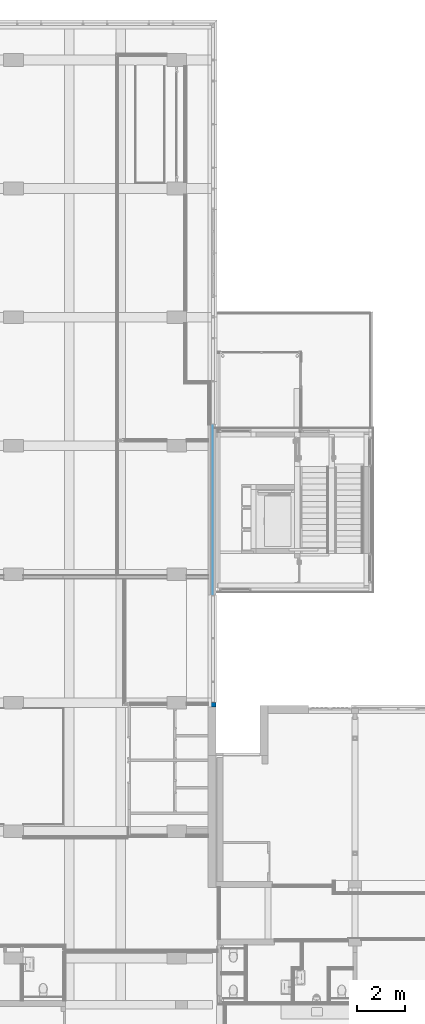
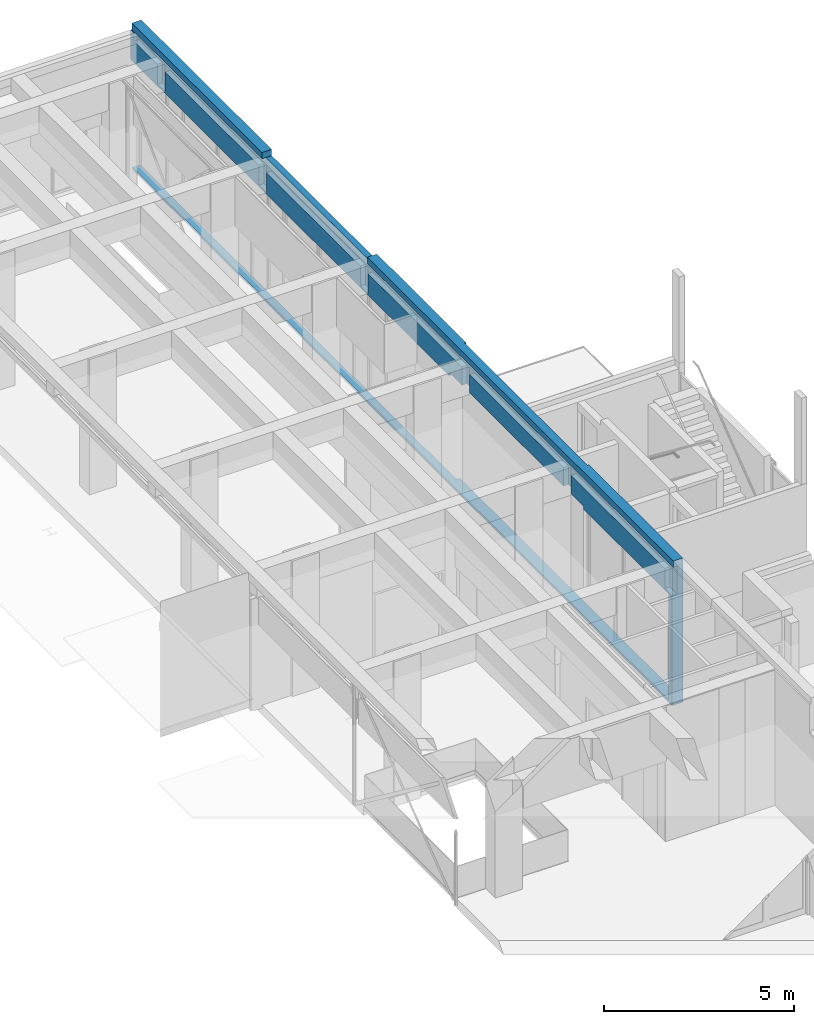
# One storey, part 45 of 117: 1 wall, 16 openings.
"""IFC2X3 building model written with IfcOpenShell, lengths in millimetres."""

from ifc_helpers import new_model, entity, si_unit, converted_unit, derived_unit, money_unit, direction, frame, origin_with_axes, place, context, subcontext, project, spatial, faceted_brep, material, type_object, element, save


model = new_model("IFC2X3")

# Units and contexts
model_context = context("Model", 3, precision=0.01, world=origin_with_axes(), true_north=direction((0.0, 1.0)))
body_context = subcontext(model_context, "Body", "Model", "MODEL_VIEW")
ifc_project = project(units=[si_unit("LENGTHUNIT", "METRE", prefix="MILLI"), si_unit("AREAUNIT", "SQUARE_METRE"), si_unit("VOLUMEUNIT", "CUBIC_METRE"), converted_unit("PLANEANGLEUNIT", "DEGREE", entity("IfcPlaneAngleMeasure", 0.0174532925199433), si_unit("PLANEANGLEUNIT", "RADIAN"), dimensions=[0, 0, 0, 0, 0, 0, 0]), money_unit("EUR"), converted_unit("TIMEUNIT", "Year", entity("IfcTimeMeasure", 31557600.0), si_unit("TIMEUNIT", "SECOND"), dimensions=[0, 0, 1, 0, 0, 0, 0]), si_unit("MASSUNIT", "GRAM", prefix="KILO"), si_unit("THERMODYNAMICTEMPERATUREUNIT", "DEGREE_CELSIUS"), si_unit("LUMINOUSINTENSITYUNIT", "LUMEN"), si_unit("ENERGYUNIT", "JOULE", prefix="MEGA"), derived_unit("THERMALCONDUCTANCEUNIT", [(si_unit("POWERUNIT", "WATT"), 1), (si_unit("LENGTHUNIT", "METRE"), -1), (si_unit("THERMODYNAMICTEMPERATUREUNIT", "KELVIN"), -1)]), derived_unit("SPECIFICHEATCAPACITYUNIT", [(si_unit("ENERGYUNIT", "JOULE"), 1), (si_unit("MASSUNIT", "GRAM", prefix="KILO"), -1), (si_unit("THERMODYNAMICTEMPERATUREUNIT", "KELVIN"), -1)]), derived_unit("MASSDENSITYUNIT", [(si_unit("MASSUNIT", "GRAM", prefix="KILO"), 1), (si_unit("VOLUMEUNIT", "CUBIC_METRE"), -1)])], contexts=[model_context])

# Site, building, storey
site_placement = place(None, origin_with_axes())
site = spatial("IfcSite", under=ifc_project, at=site_placement, Name="Site", CompositionType="ELEMENT")
building_placement = place(site_placement, origin_with_axes())
building = spatial("IfcBuilding", under=site, at=building_placement, Name="Naam gebouw", CompositionType="ELEMENT")
storey_placement = place(building_placement, frame((0.0, 0.0, 4150.0), z_axis=(0.0, 0.0, 1.0), x_axis=(1.0, 0.0, 0.0)))
storey = spatial("IfcBuildingStorey", under=building, at=storey_placement, Name="1e verdieping N", CompositionType="ELEMENT", Elevation=4150.0)

# Wall, openings
ifc_material = material(Name="ALG - CONSTRUCTIEF")
wall_type = type_object("IfcWallType", Name="ALG - CONSTRUCTIEF 330", PredefinedType="NOTDEFINED")
wall_placement = place(storey_placement, frame((29906.0, 56215.91242510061, -79.9999999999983), z_axis=(0.0, 0.0, 1.0), x_axis=(0.0, -1.0, 0.0)))
wall = element("IfcWall", 1, at=wall_placement, inside=storey, type_object=wall_type, material=ifc_material, Name="_Wand-x", context=body_context, shape_type="Brep", body=[
    faceted_brep([(329.9999999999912, 0.0, 79.99999999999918), (104.9999999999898, 225.0000000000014, 79.99999999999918), (104.9999999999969, 0.0, 79.99999999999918), (1610.000000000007, 0.0, 79.99999999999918), (1610.000000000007, 225.0000000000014, 79.99999999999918), (104.9999999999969, 225.0000000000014, 0.0), (104.9999999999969, 0.0, 0.0), (28435.0, 0.0, 0.0), (28435.0, 0.0, 3529.999999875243), (28060.0, 0.0, 3529.999999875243), (28060.0, 0.0, 4169.999999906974), (23130.0, 0.0, 4169.999999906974), (23130.0, 0.0, 3579.999999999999), (23800.0, 0.0, 3579.999999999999), (23800.0, 0.0, 3479.999999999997), (28259.99999999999, 0.0, 3479.999999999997), (28259.99999999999, 0.0, 79.99999999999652), (28259.99999999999, 329.9999999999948, 79.99999999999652), (16730.0, 329.9999999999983, 79.99999999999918), (16730.0, 224.9999999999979, 79.99999999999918), (1610.000000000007, 225.0000000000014, 0.0), (16730.0, 224.9999999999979, 0.0), (16730.0, 329.9999999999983, 0.0), (28435.0, 329.9999999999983, 0.0), (28435.0, 329.9999999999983, 4619.999999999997), (28435.0, 39.00000000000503, 4619.999999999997), (28435.0, 39.00000000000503, 4419.999999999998), (28435.0, 149.9999999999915, 4419.999999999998), (28435.0, 149.999999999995, 3529.999999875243), (28060.0, 149.999999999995, 3529.999999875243), (28060.0, 149.9999999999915, 4169.999999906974), (23130.0, 149.9999999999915, 4169.999999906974), (23130.0, 149.999999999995, 3579.999999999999), (22730.0, 149.999999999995, 3579.999999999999), (22730.0, 0.0, 3579.999999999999), (17800.0, 0.0, 3579.999999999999), (17800.0, 149.999999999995, 3579.999999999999), (17400.0, 149.999999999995, 3579.999999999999), (17400.0, 0.0, 3579.999999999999), (16730.0, 0.0, 3579.999999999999), (16730.0, 329.9999999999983, 3579.999999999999), (23800.0, 329.9999999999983, 3579.999999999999), (23800.0, 329.9999999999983, 3479.999999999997), (28259.99999999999, 329.9999999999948, 3479.999999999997), (28259.99999999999, 329.9999999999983, 85.2898094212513), (28259.99999999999, 259.999999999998, 97.63269807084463), (28259.99999999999, 254.999999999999, 98.51433297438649), (28259.99999999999, 254.999999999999, 108.5143329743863), (28259.99999999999, 252.9999999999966, 108.5143329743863), (28259.99999999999, 252.9999999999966, 96.83613371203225), (28259.99999999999, 259.999999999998, 95.60184484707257), (28259.99999999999, 329.9999999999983, 83.25895619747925), (1610.000000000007, 330.0000000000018, 3479.999999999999), (0.0, 330.0000000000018, 3479.999999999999), (0.0, 330.0000000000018, 4619.999999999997), (6840.000000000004, 330.0000000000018, 4619.999999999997), (6840.000000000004, 330.0000000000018, 4419.999999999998), (12370.0, 330.0000000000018, 4419.999999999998), (12370.0, 330.0000000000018, 4619.999999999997), (17035.99999876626, 329.9999999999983, 4619.999999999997), (17035.99999876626, 329.9999999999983, 4449.999999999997), (23503.99999875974, 329.9999999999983, 4449.999999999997), (23503.99999875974, 329.9999999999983, 4619.999999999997), (16730.0, 329.9999999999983, 3479.999999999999), (12370.0, 39.00000000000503, 4619.999999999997), (12470.00000000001, 39.00000000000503, 4619.999999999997), (17400.0, 39.00000000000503, 4619.999999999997), (17800.0, 39.00000000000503, 4619.999999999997), (22730.0, 39.00000000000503, 4619.999999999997), (23130.0, 39.00000000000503, 4619.999999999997), (23503.99999875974, 285.00000004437, 4619.999999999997), (17035.99999876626, 285.0000000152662, 4619.999999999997), (12370.0, 39.00000000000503, 4419.999999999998), (12370.0, 149.9999999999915, 4419.999999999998), (6840.000000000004, 149.999999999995, 4419.999999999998), (179.9968579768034, 149.999999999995, 4419.999999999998), (179.9968579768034, 149.999999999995, 4169.999999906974), (1410.000000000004, 149.999999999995, 4169.999999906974), (1410.000000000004, 149.999999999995, 3529.999999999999), (1810.000000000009, 149.999999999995, 3529.999999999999), (1810.000000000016, 149.999999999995, 4169.999999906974), (6740.000000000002, 149.999999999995, 4169.999999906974), (6740.000000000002, 149.999999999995, 3529.999999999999), (7140.000000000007, 149.999999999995, 3529.999999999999), (7140.000000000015, 149.999999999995, 4169.999999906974), (12070.0, 149.9999999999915, 4169.999999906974), (12070.0, 149.999999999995, 3529.999999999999), (12470.00000000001, 149.999999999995, 3529.999999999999), (12470.00000000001, 149.9999999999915, 4169.999999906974), (17400.0, 149.9999999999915, 4169.999999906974), (17800.0, 149.9999999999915, 4169.999999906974), (22730.0, 149.9999999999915, 4169.999999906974), (22730.0, 0.0, 4169.999999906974), (17800.0, 0.0, 4169.999999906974), (17400.0, 0.0, 4169.999999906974), (329.9999999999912, 0.0, 3479.999999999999), (1610.000000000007, 0.0, 3479.999999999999), (16730.0, 0.0, 3479.999999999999), (12470.00000000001, 0.0, 4169.999999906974), (12470.00000000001, 0.0, 3529.999999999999), (12070.0, 0.0, 3529.999999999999), (12070.0, 0.0, 4169.999999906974), (7140.000000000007, 0.0, 4169.999999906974), (7140.000000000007, 0.0, 3529.999999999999), (6740.000000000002, 0.0, 3529.999999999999), (6740.000000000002, 0.0, 4169.999999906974), (1810.000000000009, 0.0, 4169.999999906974), (1810.000000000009, 0.0, 3529.999999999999), (1410.000000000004, 0.0, 3529.999999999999), (1410.000000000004, 0.0, 4169.999999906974), (329.9968579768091, 0.0, 4169.999999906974), (179.9968579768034, 0.0, 4169.999999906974), (179.9968579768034, 0.0, 4419.999999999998), (0.0, 0.0, 4419.999999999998), (0.0, 0.0, 3479.999999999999), (69.99999999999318, 0.0, 3479.999999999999), (69.99999999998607, 260.0000000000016, 3479.999999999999), (1610.000000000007, 260.0000000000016, 3479.999999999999), (0.0, 39.00000000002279, 4419.999999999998), (0.0, 39.00000000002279, 4619.999999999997), (6840.000000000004, 39.00000000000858, 4619.999999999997), (1410.000000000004, 39.00000000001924, 4619.999999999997), (1810.000000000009, 39.00000000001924, 4619.999999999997), (6740.000000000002, 39.00000000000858, 4619.999999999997), (6840.000000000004, 39.00000000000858, 4419.999999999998), (17035.99999876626, 285.0000000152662, 4449.999999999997), (23503.99999875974, 285.00000004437, 4449.999999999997), (179.9968579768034, 39.00000000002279, 4419.999999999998)], [[[0, 1, 2]], [[1, 0, 3, 4]], [[1, 5, 6, 2]], [[3, 0, 2, 6, 7, 8, 9, 10, 11, 12, 13, 14, 15, 16]], [[4, 3, 16, 17, 18, 19]], [[5, 1, 4, 20]], [[5, 20, 21, 22, 23, 7, 6]], [[23, 24, 25, 26, 27, 28, 8, 7]], [[9, 8, 28, 29]], [[29, 30, 10, 9]], [[30, 31, 11, 10]], [[11, 31, 32, 12]], [[12, 32, 33, 34, 35, 36, 37, 38, 39, 40, 41, 13]], [[41, 42, 14, 13]], [[43, 15, 14, 42]], [[16, 15, 43, 44, 45, 46, 47, 48, 49, 50, 51, 17]], [[52, 53, 54, 55, 56, 57, 58, 59, 60, 61, 62, 24, 23, 22, 18, 17, 51, 44, 43, 42, 41, 40, 63]], [[21, 19, 18, 22]], [[20, 4, 19, 21]], [[64, 65, 66, 67, 68, 69, 25, 24, 62, 70, 71, 59, 58]], [[26, 25, 69, 68, 67, 66, 65, 64, 72]], [[26, 72, 73, 27]], [[31, 30, 29, 28, 27, 73, 74, 75, 76, 77, 78, 79, 80, 81, 82, 83, 84, 85, 86, 87, 88, 89, 37, 36, 90, 91, 33, 32]], [[91, 92, 34, 33]], [[92, 93, 35, 34]], [[93, 90, 36, 35]], [[89, 94, 38, 37]], [[95, 96, 97, 39, 38, 94, 98, 99, 100, 101, 102, 103, 104, 105, 106, 107, 108, 109, 110, 111, 112, 113, 114, 115]], [[97, 63, 40, 39]], [[46, 45, 44, 51, 50, 49, 48, 47]], [[116, 53, 52, 117]], [[53, 114, 113, 118, 119, 54]], [[120, 55, 54, 119, 121, 122, 123]], [[124, 74, 56, 55, 120]], [[56, 74, 73, 57]], [[73, 72, 64, 58, 57]], [[71, 125, 60, 59]], [[125, 126, 61, 60]], [[61, 126, 70, 62]], [[117, 52, 63, 97, 96]], [[126, 125, 71, 70]], [[74, 124, 127, 75]], [[127, 112, 111, 76, 75]], [[109, 77, 76, 111, 110]], [[78, 77, 109, 108]], [[78, 108, 107, 79]], [[107, 106, 80, 79]], [[81, 80, 106, 105]], [[82, 81, 105, 104]], [[82, 104, 103, 83]], [[103, 102, 84, 83]], [[85, 84, 102, 101]], [[86, 85, 101, 100]], [[86, 100, 99, 87]], [[99, 98, 88, 87]], [[89, 88, 98, 94]], [[91, 90, 93, 92]], [[95, 116, 117, 96]], [[113, 112, 127, 118]], [[53, 116, 115, 114]], [[116, 95, 115]], [[123, 122, 121, 119, 118, 127, 124, 120]]]),
])
opening_1_placement = place(wall_placement, frame((24697.5, 0.0, 79.99999999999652), z_axis=(0.0, 0.0, 1.0), x_axis=(1.0, 0.0, 0.0)))
element("IfcOpeningElement", 2, at=opening_1_placement, cuts=wall, Name="_Merk-027", context=body_context, shape_type="Brep", body=[
    faceted_brep([(-897.5000000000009, 259.999999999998, 0.0), (-897.5000000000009, 259.999999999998, 3400.0), (-897.5000000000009, 330.9999999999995, 3400.0), (-897.5000000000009, 330.9999999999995, 0.0), (-897.5000000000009, -1.000000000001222, 0.0), (-897.5000000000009, -1.000000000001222, 3400.0), (897.5000000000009, 259.999999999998, 3400.0), (897.5000000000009, 330.9999999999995, 3400.0), (897.5000000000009, -1.000000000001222, 3400.0), (897.5000000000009, 330.9999999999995, 0.0), (897.5000000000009, 259.999999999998, 0.0), (897.5000000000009, -1.000000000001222, 0.0)], [[[0, 1, 2, 3]], [[1, 0, 4, 5]], [[6, 7, 2, 1, 5, 8]], [[7, 9, 3, 2]], [[0, 3, 9, 10, 11, 4]], [[5, 4, 11, 8]], [[6, 10, 9, 7]], [[10, 6, 8, 11]]]),
])
opening_2_placement = place(wall_placement, frame((27825.0, 0.0, 79.99999999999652), z_axis=(0.0, 0.0, 1.0), x_axis=(1.0, 0.0, 0.0)))
element("IfcOpeningElement", 3, at=opening_2_placement, cuts=wall, Name="_Merk-028", context=body_context, shape_type="Brep", body=[
    faceted_brep([(-434.9999999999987, 259.999999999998, 0.0), (-434.9999999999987, 259.999999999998, 3400.0), (-434.9999999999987, 330.9999999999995, 3400.0), (-434.9999999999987, 330.9999999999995, 0.0), (-434.9999999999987, -1.000000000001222, 0.0), (-434.9999999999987, -1.000000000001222, 3400.0), (434.9999999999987, 259.999999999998, 3400.0), (434.9999999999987, 330.9999999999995, 3400.0), (434.9999999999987, -1.000000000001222, 3400.0), (434.9999999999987, 330.9999999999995, 0.0), (434.9999999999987, 259.999999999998, 0.0), (434.9999999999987, -1.000000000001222, 0.0)], [[[0, 1, 2, 3]], [[1, 0, 4, 5]], [[6, 7, 2, 1, 5, 8]], [[7, 9, 3, 2]], [[0, 3, 9, 10, 11, 4]], [[5, 4, 11, 8]], [[6, 10, 9, 7]], [[10, 6, 8, 11]]]),
])
opening_3_placement = place(wall_placement, frame((14037.50000000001, 0.0, 79.99999999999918), z_axis=(0.0, 0.0, 1.0), x_axis=(1.0, 0.0, 0.0)))
element("IfcOpeningElement", 4, at=opening_3_placement, cuts=wall, Name="_Merk-027", context=body_context, shape_type="Brep", body=[
    faceted_brep([(897.5000000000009, 259.999999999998, 0.0), (897.5000000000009, 330.9999999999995, 0.0), (897.5000000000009, 330.9999999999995, 3400.0), (897.5000000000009, 259.999999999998, 3400.0), (897.5000000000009, -1.000000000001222, 3400.0), (897.5000000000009, -1.000000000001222, 0.0), (897.5000000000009, 224.9999999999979, 0.0), (897.5000000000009, 224.9999999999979, -80.00000000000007), (897.5000000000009, 330.9999999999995, -80.00000000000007), (-897.5000000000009, 330.9999999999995, 0.0), (-897.5000000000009, 330.9999999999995, 3400.0), (-897.5000000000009, 330.9999999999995, -80.00000000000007), (-897.5000000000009, 259.999999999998, 3400.0), (-897.5000000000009, -1.000000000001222, 3400.0), (-897.5000000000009, -1.000000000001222, 0.0), (-897.5000000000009, 224.9999999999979, 0.0), (-897.5000000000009, 224.9999999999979, -80.00000000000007), (-897.5000000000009, 259.999999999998, 0.0)], [[[0, 1, 2, 3]], [[1, 0, 3, 4, 5, 6, 7, 8]], [[9, 10, 2, 1, 8, 11]], [[3, 2, 10, 12, 13, 4]], [[13, 14, 5, 4]], [[15, 6, 5, 14]], [[6, 15, 16, 7]], [[7, 16, 11, 8]], [[9, 17, 12, 10]], [[17, 9, 11, 16, 15, 14, 13, 12]]]),
])
opening_4_placement = place(wall_placement, frame((26492.49999999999, 0.0, 79.99999999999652), z_axis=(0.0, 0.0, 1.0), x_axis=(1.0, 0.0, 0.0)))
element("IfcOpeningElement", 5, at=opening_4_placement, cuts=wall, Name="_Merk-027", context=body_context, shape_type="Brep", body=[
    faceted_brep([(-897.5000000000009, 259.999999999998, 0.0), (-897.5000000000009, 259.999999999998, 3400.0), (-897.5000000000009, 330.9999999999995, 3400.0), (-897.5000000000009, 330.9999999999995, 0.0), (-897.5000000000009, -1.000000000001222, 0.0), (-897.5000000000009, -1.000000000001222, 3400.0), (897.5000000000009, 259.999999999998, 3400.0), (897.5000000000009, 330.9999999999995, 3400.0), (897.5000000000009, -1.000000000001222, 3400.0), (897.5000000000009, 330.9999999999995, 0.0), (897.5000000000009, 259.999999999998, 0.0), (897.5000000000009, -1.000000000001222, 0.0)], [[[0, 1, 2, 3]], [[1, 0, 4, 5]], [[6, 7, 2, 1, 5, 8]], [[7, 9, 3, 2]], [[0, 3, 9, 10, 11, 4]], [[5, 4, 11, 8]], [[6, 10, 9, 7]], [[10, 6, 8, 11]]]),
])
opening_5_placement = place(wall_placement, frame((15832.5, 0.0, 79.99999999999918), z_axis=(0.0, 0.0, 1.0), x_axis=(1.0, 0.0, 0.0)))
element("IfcOpeningElement", 6, at=opening_5_placement, cuts=wall, Name="_Merk-027", context=body_context, shape_type="Brep", body=[
    faceted_brep([(897.5000000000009, 259.999999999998, 0.0), (897.5000000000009, 330.9999999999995, 0.0), (897.5000000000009, 330.9999999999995, 3400.0), (897.5000000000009, 259.999999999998, 3400.0), (897.5000000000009, -1.000000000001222, 3400.0), (897.5000000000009, -1.000000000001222, 0.0), (897.5000000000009, 224.9999999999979, 0.0), (897.5000000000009, 224.9999999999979, -80.00000000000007), (897.5000000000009, 330.9999999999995, -80.00000000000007), (-897.5000000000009, 330.9999999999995, 0.0), (-897.5000000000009, 330.9999999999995, 3400.0), (-897.5000000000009, 330.9999999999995, -80.00000000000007), (-897.5000000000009, 259.999999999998, 3400.0), (-897.5000000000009, -1.000000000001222, 3400.0), (-897.5000000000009, -1.000000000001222, 0.0), (-897.5000000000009, 224.9999999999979, 0.0), (-897.5000000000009, 224.9999999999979, -80.00000000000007), (-897.5000000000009, 259.999999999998, 0.0)], [[[0, 1, 2, 3]], [[1, 0, 3, 4, 5, 6, 7, 8]], [[9, 10, 2, 1, 8, 11]], [[3, 2, 10, 12, 13, 4]], [[13, 14, 5, 4]], [[15, 6, 5, 14]], [[6, 15, 16, 7]], [[7, 16, 11, 8]], [[9, 17, 12, 10]], [[17, 9, 11, 16, 15, 14, 13, 12]]]),
])
opening_6_placement = place(wall_placement, frame((12705.00000000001, 0.0, 79.99999999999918), z_axis=(0.0, 0.0, 1.0), x_axis=(1.0, 0.0, 0.0)))
element("IfcOpeningElement", 7, at=opening_6_placement, cuts=wall, Name="_Merk-028sp", context=body_context, shape_type="Brep", body=[
    faceted_brep([(435.0000000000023, 259.999999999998, 0.0), (435.0000000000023, 330.9999999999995, 0.0), (435.0000000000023, 330.9999999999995, 3400.0), (435.0000000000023, 259.999999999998, 3400.0), (435.0000000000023, -1.000000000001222, 3400.0), (435.0000000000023, -1.000000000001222, 0.0), (435.0000000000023, 224.9999999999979, 0.0), (435.0000000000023, 224.9999999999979, -80.00000000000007), (435.0000000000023, 330.9999999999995, -80.00000000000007), (-435.0000000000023, 330.9999999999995, 0.0), (-435.0000000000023, 330.9999999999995, 3400.0), (-435.0000000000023, 330.9999999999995, -80.00000000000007), (-435.0000000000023, 259.999999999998, 3400.0), (-435.0000000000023, -1.000000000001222, 3400.0), (-435.0000000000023, -1.000000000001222, 0.0), (-435.0000000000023, 224.9999999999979, 0.0), (-435.0000000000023, 224.9999999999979, -80.00000000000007), (-435.0000000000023, 259.999999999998, 0.0)], [[[0, 1, 2, 3]], [[1, 0, 3, 4, 5, 6, 7, 8]], [[9, 10, 2, 1, 8, 11]], [[3, 2, 10, 12, 13, 4]], [[13, 14, 5, 4]], [[15, 6, 5, 14]], [[6, 15, 16, 7]], [[7, 16, 11, 8]], [[9, 17, 12, 10]], [[17, 9, 11, 16, 15, 14, 13, 12]]]),
])
opening_7_placement = place(wall_placement, frame((20265.0, 0.0, 79.99999999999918), z_axis=(0.0, 0.0, 1.0), x_axis=(1.0, 0.0, 0.0)))
element("IfcOpeningElement", 8, at=opening_7_placement, cuts=wall, Name="_", context=body_context, shape_type="Brep", body=[
    faceted_brep([(-3535.000000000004, 260.0000000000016, 0.0), (-3535.000000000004, 260.0000000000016, 3500.0), (-3535.000000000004, 331.0000000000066, 3500.0), (-3535.000000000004, 331.0000000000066, 0.0), (-3535.000000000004, -1.00000000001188, 0.0), (-3535.000000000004, -1.00000000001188, 3500.0), (3535.000000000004, 259.999999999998, 3500.0), (3535.000000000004, 331.0000000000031, 3500.0), (3535.000000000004, -1.000000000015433, 3500.0), (3535.000000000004, 331.0000000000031, 0.0), (3535.000000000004, 259.999999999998, 0.0), (3535.000000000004, -1.000000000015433, 0.0)], [[[0, 1, 2, 3]], [[1, 0, 4, 5]], [[6, 7, 2, 1, 5, 8]], [[7, 9, 3, 2]], [[0, 3, 9, 10, 11, 4]], [[5, 4, 11, 8]], [[6, 10, 9, 7]], [[10, 6, 8, 11]]]),
])
opening_8_placement = place(wall_placement, frame((7375.000000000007, 0.0, 79.99999999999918), z_axis=(0.0, 0.0, 1.0), x_axis=(1.0, 0.0, 0.0)))
element("IfcOpeningElement", 9, at=opening_8_placement, cuts=wall, Name="_Merk-034", context=body_context, shape_type="Brep", body=[
    faceted_brep([(435.0000000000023, 260.0000000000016, 0.0), (435.0000000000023, 330.9999999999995, 0.0), (435.0000000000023, 330.9999999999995, 3400.0), (435.0000000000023, 260.0000000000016, 3400.0), (435.0000000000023, -1.000000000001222, 3400.0), (435.0000000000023, -1.000000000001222, 0.0), (435.0000000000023, 225.0000000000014, 0.0), (435.0000000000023, 225.0000000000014, -80.00000000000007), (435.0000000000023, 330.9999999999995, -80.00000000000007), (-435.0000000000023, 330.9999999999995, 0.0), (-435.0000000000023, 330.9999999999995, 3400.0), (-435.0000000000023, 330.9999999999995, -80.00000000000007), (-435.0000000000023, 260.0000000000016, 3400.0), (-435.0000000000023, -1.000000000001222, 3400.0), (-435.0000000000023, -1.000000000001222, 0.0), (-435.0000000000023, 225.0000000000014, 0.0), (-435.0000000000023, 225.0000000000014, -80.00000000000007), (-435.0000000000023, 260.0000000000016, 0.0)], [[[0, 1, 2, 3]], [[1, 0, 3, 4, 5, 6, 7, 8]], [[9, 10, 2, 1, 8, 11]], [[3, 2, 10, 12, 13, 4]], [[13, 14, 5, 4]], [[15, 6, 5, 14]], [[6, 15, 16, 7]], [[7, 16, 11, 8]], [[9, 17, 12, 10]], [[17, 9, 11, 16, 15, 14, 13, 12]]]),
])
opening_9_placement = place(wall_placement, frame((10502.50000000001, 0.0, 79.99999999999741), z_axis=(0.0, 0.0, 1.0), x_axis=(1.0, 0.0, 0.0)))
element("IfcOpeningElement", 10, at=opening_9_placement, cuts=wall, Name="_Merk-035", context=body_context, shape_type="Brep", body=[
    faceted_brep([(897.5000000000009, 259.999999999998, 0.0), (897.5000000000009, 330.9999999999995, 0.0), (897.5000000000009, 330.9999999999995, 3400.0), (897.5000000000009, 259.999999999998, 3400.0), (897.5000000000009, -1.000000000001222, 3400.0), (897.5000000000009, -1.000000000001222, 0.0), (897.5000000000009, 224.9999999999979, 0.0), (897.5000000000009, 224.9999999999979, -80.00000000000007), (897.5000000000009, 330.9999999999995, -80.00000000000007), (-897.5000000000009, 330.9999999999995, 0.0), (-897.5000000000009, 330.9999999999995, 3400.0), (-897.5000000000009, 330.9999999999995, -80.00000000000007), (-897.5000000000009, 259.999999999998, 3400.0), (-897.5000000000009, -1.000000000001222, 3400.0), (-897.5000000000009, -1.000000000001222, 0.0), (-897.5000000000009, 224.9999999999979, 0.0), (-897.5000000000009, 224.9999999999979, -80.00000000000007), (-897.5000000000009, 259.999999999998, 0.0)], [[[0, 1, 2, 3]], [[1, 0, 3, 4, 5, 6, 7, 8]], [[9, 10, 2, 1, 8, 11]], [[3, 2, 10, 12, 13, 4]], [[13, 14, 5, 4]], [[15, 6, 5, 14]], [[6, 15, 16, 7]], [[7, 16, 11, 8]], [[9, 17, 12, 10]], [[17, 9, 11, 16, 15, 14, 13, 12]]]),
])
opening_10_placement = place(wall_placement, frame((8707.500000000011, 0.0, 79.99999999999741), z_axis=(0.0, 0.0, 1.0), x_axis=(1.0, 0.0, 0.0)))
element("IfcOpeningElement", 11, at=opening_10_placement, cuts=wall, Name="_Merk-035", context=body_context, shape_type="Brep", body=[
    faceted_brep([(897.5000000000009, 260.0000000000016, 0.0), (897.5000000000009, 330.9999999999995, 0.0), (897.5000000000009, 330.9999999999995, 3400.0), (897.5000000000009, 260.0000000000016, 3400.0), (897.5000000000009, -1.000000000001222, 3400.0), (897.5000000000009, -1.000000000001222, 0.0), (897.5000000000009, 225.0000000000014, 0.0), (897.5000000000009, 225.0000000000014, -80.00000000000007), (897.5000000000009, 330.9999999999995, -80.00000000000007), (-897.5000000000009, 330.9999999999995, 0.0), (-897.5000000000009, 330.9999999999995, 3400.0), (-897.5000000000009, 330.9999999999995, -80.00000000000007), (-897.5000000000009, 260.0000000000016, 3400.0), (-897.5000000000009, -1.000000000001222, 3400.0), (-897.5000000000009, -1.000000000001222, 0.0), (-897.5000000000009, 225.0000000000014, 0.0), (-897.5000000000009, 225.0000000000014, -80.00000000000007), (-897.5000000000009, 260.0000000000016, 0.0)], [[[0, 1, 2, 3]], [[1, 0, 3, 4, 5, 6, 7, 8]], [[9, 10, 2, 1, 8, 11]], [[3, 2, 10, 12, 13, 4]], [[13, 14, 5, 4]], [[15, 6, 5, 14]], [[6, 15, 16, 7]], [[7, 16, 11, 8]], [[9, 17, 12, 10]], [[17, 9, 11, 16, 15, 14, 13, 12]]]),
])
opening_11_placement = place(wall_placement, frame((6505.000000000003, 0.0, 79.99999999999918), z_axis=(0.0, 0.0, 1.0), x_axis=(1.0, 0.0, 0.0)))
element("IfcOpeningElement", 12, at=opening_11_placement, cuts=wall, Name="_Merk-028", context=body_context, shape_type="Brep", body=[
    faceted_brep([(435.0000000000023, 260.0000000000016, 0.0), (435.0000000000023, 330.9999999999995, 0.0), (435.0000000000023, 330.9999999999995, 3400.0), (435.0000000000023, 260.0000000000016, 3400.0), (435.0000000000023, -1.000000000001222, 3400.0), (435.0000000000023, -1.000000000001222, 0.0), (435.0000000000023, 225.0000000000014, 0.0), (435.0000000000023, 225.0000000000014, -80.00000000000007), (435.0000000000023, 330.9999999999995, -80.00000000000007), (-435.0000000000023, 330.9999999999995, 0.0), (-435.0000000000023, 330.9999999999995, 3400.0), (-435.0000000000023, 330.9999999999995, -80.00000000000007), (-435.0000000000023, 260.0000000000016, 3400.0), (-435.0000000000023, -1.000000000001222, 3400.0), (-435.0000000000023, -1.000000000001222, 0.0), (-435.0000000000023, 225.0000000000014, 0.0), (-435.0000000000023, 225.0000000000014, -80.00000000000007), (-435.0000000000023, 260.0000000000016, 0.0)], [[[0, 1, 2, 3]], [[1, 0, 3, 4, 5, 6, 7, 8]], [[9, 10, 2, 1, 8, 11]], [[3, 2, 10, 12, 13, 4]], [[13, 14, 5, 4]], [[15, 6, 5, 14]], [[6, 15, 16, 7]], [[7, 16, 11, 8]], [[9, 17, 12, 10]], [[17, 9, 11, 16, 15, 14, 13, 12]]]),
])
opening_12_placement = place(wall_placement, frame((3377.500000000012, 0.0, 79.99999999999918), z_axis=(0.0, 0.0, 1.0), x_axis=(1.0, 0.0, 0.0)))
element("IfcOpeningElement", 13, at=opening_12_placement, cuts=wall, Name="_Merk-027", context=body_context, shape_type="Brep", body=[
    faceted_brep([(897.5000000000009, 260.0000000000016, 0.0), (897.5000000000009, 330.9999999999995, 0.0), (897.5000000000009, 330.9999999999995, 3400.0), (897.5000000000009, 260.0000000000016, 3400.0), (897.5000000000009, -1.000000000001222, 3400.0), (897.5000000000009, -1.000000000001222, 0.0), (897.5000000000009, 225.0000000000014, 0.0), (897.5000000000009, 225.0000000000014, -80.00000000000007), (897.5000000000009, 330.9999999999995, -80.00000000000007), (-897.5000000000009, 330.9999999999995, 0.0), (-897.5000000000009, 330.9999999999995, 3400.0), (-897.5000000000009, 330.9999999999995, -80.00000000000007), (-897.5000000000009, 260.0000000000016, 3400.0), (-897.5000000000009, -1.000000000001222, 3400.0), (-897.5000000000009, -1.000000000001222, 0.0), (-897.5000000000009, 225.0000000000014, 0.0), (-897.5000000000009, 225.0000000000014, -80.00000000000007), (-897.5000000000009, 260.0000000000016, 0.0)], [[[0, 1, 2, 3]], [[1, 0, 3, 4, 5, 6, 7, 8]], [[9, 10, 2, 1, 8, 11]], [[3, 2, 10, 12, 13, 4]], [[13, 14, 5, 4]], [[15, 6, 5, 14]], [[6, 15, 16, 7]], [[7, 16, 11, 8]], [[9, 17, 12, 10]], [[17, 9, 11, 16, 15, 14, 13, 12]]]),
])
opening_13_placement = place(wall_placement, frame((5172.499999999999, 0.0, 79.99999999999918), z_axis=(0.0, 0.0, 1.0), x_axis=(1.0, 0.0, 0.0)))
element("IfcOpeningElement", 14, at=opening_13_placement, cuts=wall, Name="_Merk-027", context=body_context, shape_type="Brep", body=[
    faceted_brep([(897.5000000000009, 260.0000000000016, 0.0), (897.5000000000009, 330.9999999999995, 0.0), (897.5000000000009, 330.9999999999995, 3400.0), (897.5000000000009, 260.0000000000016, 3400.0), (897.5000000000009, -1.000000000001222, 3400.0), (897.5000000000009, -1.000000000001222, 0.0), (897.5000000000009, 225.0000000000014, 0.0), (897.5000000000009, 225.0000000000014, -80.00000000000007), (897.5000000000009, 330.9999999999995, -80.00000000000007), (-897.5000000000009, 330.9999999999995, 0.0), (-897.5000000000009, 330.9999999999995, 3400.0), (-897.5000000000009, 330.9999999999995, -80.00000000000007), (-897.5000000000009, 260.0000000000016, 3400.0), (-897.5000000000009, -1.000000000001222, 3400.0), (-897.5000000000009, -1.000000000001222, 0.0), (-897.5000000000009, 225.0000000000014, 0.0), (-897.5000000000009, 225.0000000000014, -80.00000000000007), (-897.5000000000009, 260.0000000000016, 0.0)], [[[0, 1, 2, 3]], [[1, 0, 3, 4, 5, 6, 7, 8]], [[9, 10, 2, 1, 8, 11]], [[3, 2, 10, 12, 13, 4]], [[13, 14, 5, 4]], [[15, 6, 5, 14]], [[6, 15, 16, 7]], [[7, 16, 11, 8]], [[9, 17, 12, 10]], [[17, 9, 11, 16, 15, 14, 13, 12]]]),
])
opening_14_placement = place(wall_placement, frame((2045.000000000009, 0.0, 79.99999999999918), z_axis=(0.0, 0.0, 1.0), x_axis=(1.0, 0.0, 0.0)))
element("IfcOpeningElement", 15, at=opening_14_placement, cuts=wall, Name="_Merk-028sp", context=body_context, shape_type="Brep", body=[
    faceted_brep([(435.0000000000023, 260.0000000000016, 0.0), (435.0000000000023, 330.9999999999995, 0.0), (435.0000000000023, 330.9999999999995, 3400.0), (435.0000000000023, 260.0000000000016, 3400.0), (435.0000000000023, -1.000000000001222, 3400.0), (435.0000000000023, -1.000000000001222, 0.0), (435.0000000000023, 225.0000000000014, 0.0), (435.0000000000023, 225.0000000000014, -80.00000000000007), (435.0000000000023, 330.9999999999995, -80.00000000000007), (-435.0000000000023, 330.9999999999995, 0.0), (-435.0000000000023, 330.9999999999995, 3400.0), (-435.0000000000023, 330.9999999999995, -80.00000000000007), (-435.0000000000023, 260.0000000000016, 3400.0), (-435.0000000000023, -1.000000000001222, 3400.0), (-435.0000000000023, -1.000000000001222, 0.0), (-435.0000000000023, 225.0000000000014, 0.0), (-435.0000000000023, 225.0000000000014, -80.00000000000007), (-435.0000000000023, 260.0000000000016, 0.0)], [[[0, 1, 2, 3]], [[1, 0, 3, 4, 5, 6, 7, 8]], [[9, 10, 2, 1, 8, 11]], [[3, 2, 10, 12, 13, 4]], [[13, 14, 5, 4]], [[15, 6, 5, 14]], [[6, 15, 16, 7]], [[7, 16, 11, 8]], [[9, 17, 12, 10]], [[17, 9, 11, 16, 15, 14, 13, 12]]]),
])
opening_15_placement = place(wall_placement, frame((11835.00000000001, 0.0, 79.99999999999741), z_axis=(0.0, 0.0, 1.0), x_axis=(1.0, 0.0, 0.0)))
element("IfcOpeningElement", 16, at=opening_15_placement, cuts=wall, Name="_Merk-034", context=body_context, shape_type="Brep", body=[
    faceted_brep([(435.0000000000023, 259.999999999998, 0.0), (435.0000000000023, 330.9999999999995, 0.0), (435.0000000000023, 330.9999999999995, 3400.0), (435.0000000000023, 259.999999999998, 3400.0), (435.0000000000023, -1.000000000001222, 3400.0), (435.0000000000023, -1.000000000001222, 0.0), (435.0000000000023, 224.9999999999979, 0.0), (435.0000000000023, 224.9999999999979, -80.00000000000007), (435.0000000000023, 330.9999999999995, -80.00000000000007), (-435.0000000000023, 330.9999999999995, 0.0), (-435.0000000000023, 330.9999999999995, 3400.0), (-435.0000000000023, 330.9999999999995, -80.00000000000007), (-435.0000000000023, 259.999999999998, 3400.0), (-435.0000000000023, -1.000000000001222, 3400.0), (-435.0000000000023, -1.000000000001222, 0.0), (-435.0000000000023, 224.9999999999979, 0.0), (-435.0000000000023, 224.9999999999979, -80.00000000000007), (-435.0000000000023, 259.999999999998, 0.0)], [[[0, 1, 2, 3]], [[1, 0, 3, 4, 5, 6, 7, 8]], [[9, 10, 2, 1, 8, 11]], [[3, 2, 10, 12, 13, 4]], [[13, 14, 5, 4]], [[15, 6, 5, 14]], [[6, 15, 16, 7]], [[7, 16, 11, 8]], [[9, 17, 12, 10]], [[17, 9, 11, 16, 15, 14, 13, 12]]]),
])
opening_16_placement = place(wall_placement, frame((896.9999999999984, 0.0, 79.99999999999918), z_axis=(0.0, 0.0, 1.0), x_axis=(1.0, 0.0, 0.0)))
element("IfcOpeningElement", 17, at=opening_16_placement, cuts=wall, Name="_Merk-029sp", context=body_context, shape_type="Brep", body=[
    faceted_brep([(713.0000000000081, 260.0000000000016, 0.0), (713.0000000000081, 330.9999999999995, 0.0), (713.0000000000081, 330.9999999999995, 3400.0), (713.0000000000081, 260.0000000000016, 3400.0), (713.0000000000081, -1.000000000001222, 3400.0), (713.0000000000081, -1.000000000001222, 0.0), (713.0000000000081, 225.0000000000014, 0.0), (713.0000000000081, 225.0000000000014, -80.00000000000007), (713.0000000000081, 330.9999999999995, -80.00000000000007), (-897.0000000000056, 330.9999999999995, 0.0), (-897.0000000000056, 330.9999999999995, 3400.0), (-898.0000000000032, 330.9999999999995, -80.00000000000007), (-898.0000000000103, 330.9999999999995, 0.0), (-897.0000000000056, 329.9999999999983, 3400.0), (-566.0000000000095, -1.000000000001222, 3400.0), (-566.0000000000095, -1.000000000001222, 0.0), (-792.0000000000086, 225.0000000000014, 0.0), (-792.0000000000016, 225.0000000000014, -80.00000000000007), (-897.0000000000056, 329.9999999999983, 0.0)], [[[0, 1, 2, 3]], [[1, 0, 3, 4, 5, 6, 7, 8]], [[9, 10, 2, 1, 8, 11, 12]], [[3, 2, 10, 13, 14, 4]], [[15, 5, 4, 14]], [[16, 6, 5, 15]], [[6, 16, 17, 7]], [[7, 17, 11, 8]], [[9, 18, 13, 10]], [[11, 17, 16, 15, 14, 13, 18, 12]], [[18, 9, 12]]]),
])

save(model, "model.ifc")
